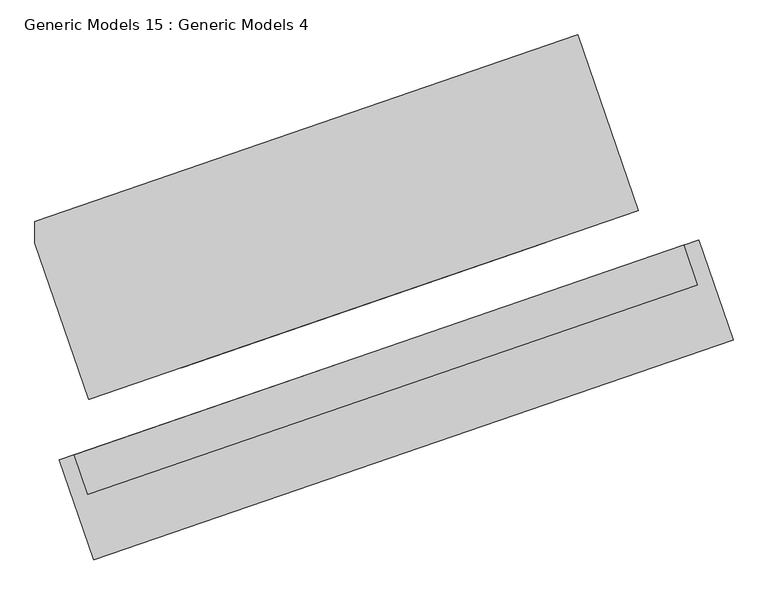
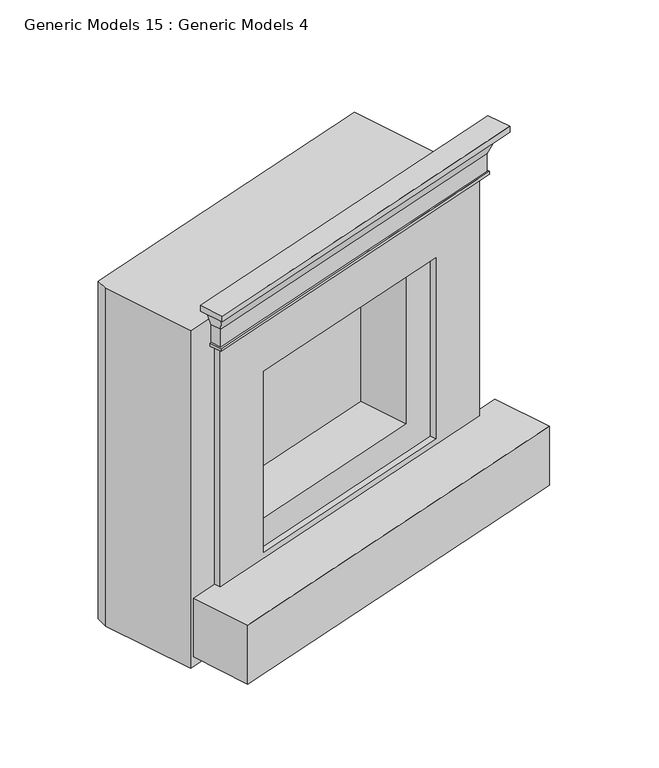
"""IFC4 building model written with IfcOpenShell, lengths in millimetres: proxy geometry, Generic Models 15 : Generic Models 4."""

from ifc_helpers import new_model, si_unit, frame, origin, origin_with_axes, place, context, project, spatial, polyline, outline, extrude, faceted_brep, source, transform, mapped, element, save


def generic_models_15_generic_models_4_dc497b9f(model_context):
    return source(origin(), model_context, "Body", "SolidModel", [
        extrude(outline(polyline([(-4782.5030259, 8554.1145848), (-3317.256209, 9057.7931782), (-3284.2281045, 8961.7114197), (-4749.4749214, 8458.0328263), (-4782.5030259, 8554.1145848)])), frame((0.0, 0.0, 1473.2), z_axis=(0.0, 0.0, 1.0), x_axis=(1.0, 0.0, 0.0)), (0.0, 0.0, 1.0), 25.4),
        faceted_brep([(-4758.4825863, 8562.371611, 1473.2), (-4710.4417071, 8578.8856632, 1473.2), (-4710.4417071, 8578.8856632, 1295.4), (-4734.4621467, 8570.6286371, 1295.4), (-4734.4621467, 8570.6286371, 1308.1), (-4728.4570368, 8572.6928936, 1308.1), (-4728.4570368, 8572.6928936, 1384.3), (-4733.7115079, 8490.3102921, 1473.2), (-3316.5055702, 8977.4748332, 1473.2), (-3341.2766486, 9049.536152, 1473.2), (-3389.3175278, 9033.0220998, 1473.2), (-3381.0605017, 9009.0016602, 1473.2), (-4702.1846809, 8554.8652236, 1473.2), (-4702.1846809, 8554.8652236, 1295.4), (-3381.0605017, 9009.0016602, 1295.4), (-3389.3175278, 9033.0220998, 1295.4), (-3365.2970882, 9041.2791259, 1295.4), (-3348.783036, 8993.2382467, 1295.4), (-4717.9480944, 8522.5877578, 1295.4), (-4717.9480944, 8522.5877578, 1308.1), (-3348.783036, 8993.2382467, 1308.1), (-3365.2970882, 9041.2791259, 1308.1), (-3371.3021981, 9039.2148694, 1308.1), (-3356.8524024, 8997.1791001, 1308.1), (-4714.0072411, 8530.6571243, 1308.1), (-4714.0072411, 8530.6571243, 1384.3), (-3356.8524024, 8997.1791001, 1384.3), (-3371.3021981, 9039.2148694, 1384.3)], [[[0, 1, 2, 3, 4, 5, 6]], [[1, 0, 7, 8, 9, 10, 11, 12]], [[2, 1, 12, 13]], [[3, 2, 13, 14, 15, 16, 17, 18]], [[4, 3, 18, 19]], [[5, 4, 19, 20, 21, 22, 23, 24]], [[6, 5, 24, 25]], [[0, 6, 25, 7]], [[13, 12, 11, 14]], [[19, 18, 17, 20]], [[25, 24, 23, 26]], [[7, 25, 26, 8]], [[9, 27, 22, 21, 16, 15, 10]], [[14, 11, 10, 15]], [[20, 17, 16, 21]], [[26, 23, 22, 27]], [[8, 26, 27, 9]]]),
        extrude(outline(polyline([(-3389.3175278, 9033.0220998), (-3381.0605017, 9009.0016602), (-4702.1846809, 8554.8652236), (-4710.4417071, 8578.8856632), (-3389.3175278, 9033.0220998)])), frame((0.0, 0.0, 1295.4), z_axis=(0.0, 0.0, 1.0), x_axis=(1.0, 0.0, 0.0)), (0.0, 0.0, 1.0), 177.8),
        faceted_brep([(-3426.4741454, 9141.1140781, -162.4210938), (-4747.5983246, 8686.9776415, -162.4210938), (-4876.8, 9062.8370609, -162.4210938), (-4876.8, 9115.279311, -162.4210938), (-3571.7978051, 9563.8738155, -162.4210938), (-3426.4741454, 9141.1140781, 1295.4), (-3571.7978051, 9563.8738155, 1295.4), (-4876.8, 9115.279311, 1295.4), (-4876.8, 9062.8370609, 1295.4), (-4747.5983246, 8686.9776415, 1295.4), (-3426.4741454, 9141.1140781, -152.4), (-3426.4741454, 9141.1140781, 0.0), (-4747.5983246, 8686.9776415, 0.0), (-4747.5983246, 8686.9776415, -152.4), (-4525.4092581, 8763.3551331, 279.4), (-4525.4092581, 8763.3551331, 1060.45), (-3648.6632119, 9064.7365865, 1060.45), (-3648.6632119, 9064.7365865, 279.4), (-4876.8, 9062.8370609, 0.0), (-4876.8, 9062.8370609, -152.4), (-4876.8, 9115.279311, 0.0), (-4876.8, 9115.279311, -152.4), (-3571.7978051, 9563.8738155, 0.0), (-3571.7978051, 9563.8738155, -152.4), (-4594.3554262, 8963.925804, 279.4), (-3717.60938, 9265.3072573, 279.4), (-3717.60938, 9265.3072573, 1060.45), (-4594.3554262, 8963.925804, 1060.45)], [[[0, 1, 2, 3, 4]], [[5, 6, 7, 8, 9]], [[1, 0, 10, 11, 5, 9, 12, 13], [14, 15, 16, 17]], [[2, 1, 13, 12, 9, 8, 18, 19]], [[3, 2, 19, 18, 8, 7, 20, 21]], [[4, 3, 21, 20, 7, 6, 22, 23]], [[0, 4, 23, 22, 6, 5, 11, 10]], [[24, 25, 26, 27]], [[24, 27, 15, 14]], [[27, 26, 16, 15]], [[26, 25, 17, 16]], [[25, 24, 14, 17]]]),
        extrude(outline(polyline([(1397.0, -234.95), (0.0, -234.95), (0.0, 806.45), (1397.0, 806.45), (1397.0, -234.95)]), holes=[polyline([(234.95, 0.0), (1162.05, 0.0), (1162.05, 781.05), (234.95, 781.05), (234.95, 0.0)])]), frame((-4702.1846809, 8554.8652236, 1060.45), z_axis=(-0.325079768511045, 0.9456865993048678, 0.0), x_axis=(0.9456865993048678, 0.325079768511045, 0.0)), (0.0, 0.0, 1.0), 25.4),
        extrude(outline(polyline([(-3281.2137633, 9070.1827689), (-3198.6435021, 8829.9783726), (-4735.951638, 8301.5287009), (-4818.5218992, 8541.7330972), (-3281.2137633, 9070.1827689)])), origin_with_axes(), (0.0, 0.0, 1.0), 254.0),
    ])


if __name__ == "__main__":
    model = new_model("IFC4")
    model_context = context("Model", 3, world=origin())
    ifc_project = project(units=[si_unit("LENGTHUNIT", "METRE", prefix="MILLI")], contexts=[model_context])
    site = spatial("IfcSite", under=ifc_project)
    building = spatial("IfcBuilding", under=site)
    placement = place(None, origin())
    generic_models_15_generic_models_4_shape = generic_models_15_generic_models_4_dc497b9f(model_context)
    element("IfcBuildingElementProxy", 1, Name="Generic Models 15 : Generic Models 4", ObjectType="Generic Models 15 : Generic Models 4", at=placement, inside=building, context=model_context, shape_type="MappedRepresentation", body=[
        mapped(generic_models_15_generic_models_4_shape, transform((0.0, 0.0, 0.0), x_axis=(1.0, 0.0, 0.0), y_axis=(0.0, 1.0, 0.0), z_axis=(0.0, 0.0, 1.0))),
    ])
    save(model, "model.ifc")
